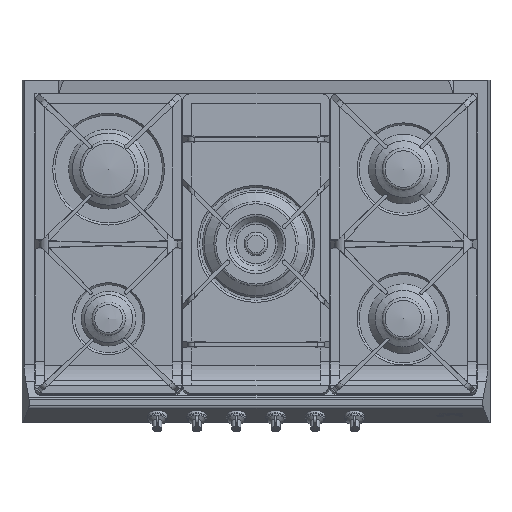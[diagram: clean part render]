
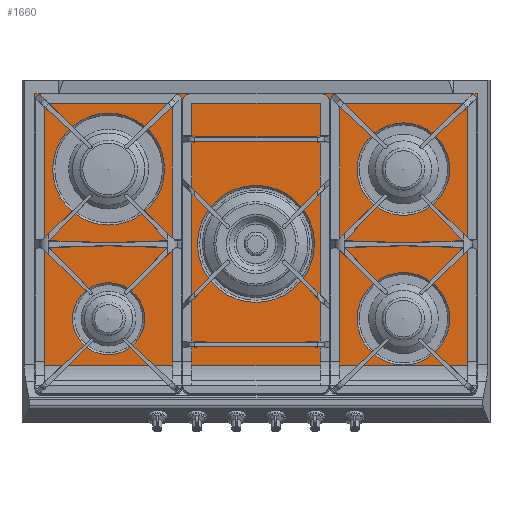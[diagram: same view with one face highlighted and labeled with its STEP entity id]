
A CAD part, top view. The second image highlights one B-rep face of the part: STEP entity #1660.
In plain terms, the highlighted planar face has unit normal (0, 0, 1).
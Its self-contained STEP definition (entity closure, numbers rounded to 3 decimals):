
#644=PLANE('',#12295);
#1660=ADVANCED_FACE('',(#2512,#2513,#2514,#2515,#2516,#2517),#644,.F.);
#2512=FACE_BOUND('',#2901,.T.);
#2513=FACE_BOUND('',#2902,.T.);
#2514=FACE_BOUND('',#2903,.T.);
#2515=FACE_BOUND('',#2904,.T.);
#2516=FACE_BOUND('',#2905,.T.);
#2517=FACE_BOUND('',#2906,.T.);
#2901=EDGE_LOOP('',(#4071));
#2902=EDGE_LOOP('',(#4072));
#2903=EDGE_LOOP('',(#4073));
#2904=EDGE_LOOP('',(#4074));
#2905=EDGE_LOOP('',(#4075));
#2906=EDGE_LOOP('',(#4076,#4077,#4078,#4079));
#4071=ORIENTED_EDGE('',*,*,#8109,.F.);
#4072=ORIENTED_EDGE('',*,*,#8110,.F.);
#4073=ORIENTED_EDGE('',*,*,#8111,.F.);
#4074=ORIENTED_EDGE('',*,*,#8112,.F.);
#4075=ORIENTED_EDGE('',*,*,#8113,.F.);
#4076=ORIENTED_EDGE('',*,*,#8114,.F.);
#4077=ORIENTED_EDGE('',*,*,#8108,.F.);
#4078=ORIENTED_EDGE('',*,*,#8115,.F.);
#4079=ORIENTED_EDGE('',*,*,#8116,.T.);
#6958=VERTEX_POINT('',#17663);
#6959=VERTEX_POINT('',#17665);
#6960=VERTEX_POINT('',#17669);
#6961=VERTEX_POINT('',#17671);
#6962=VERTEX_POINT('',#17673);
#6963=VERTEX_POINT('',#17675);
#6964=VERTEX_POINT('',#17677);
#6965=VERTEX_POINT('',#17679);
#6966=VERTEX_POINT('',#17681);
#8108=EDGE_CURVE('',#6959,#6958,#10085,.T.);
#8109=EDGE_CURVE('',#6960,#6960,#9513,.T.);
#8110=EDGE_CURVE('',#6961,#6961,#9514,.T.);
#8111=EDGE_CURVE('',#6962,#6962,#9515,.T.);
#8112=EDGE_CURVE('',#6963,#6963,#9516,.T.);
#8113=EDGE_CURVE('',#6964,#6964,#9517,.T.);
#8114=EDGE_CURVE('',#6958,#6965,#10086,.T.);
#8115=EDGE_CURVE('',#6966,#6959,#10087,.T.);
#8116=EDGE_CURVE('',#6966,#6965,#10088,.T.);
#9513=CIRCLE('',#12290,82.25);
#9514=CIRCLE('',#12291,53.);
#9515=CIRCLE('',#12292,86.);
#9516=CIRCLE('',#12293,68.);
#9517=CIRCLE('',#12294,68.);
#10085=LINE('',#17666,#11118);
#10086=LINE('',#17678,#11119);
#10087=LINE('',#17680,#11120);
#10088=LINE('',#17682,#11121);
#11118=VECTOR('',#13858,1.);
#11119=VECTOR('',#13871,1.);
#11120=VECTOR('',#13872,1.);
#11121=VECTOR('',#13873,1.);
#12290=AXIS2_PLACEMENT_3D('',#17668,#13861,#13862);
#12291=AXIS2_PLACEMENT_3D('',#17670,#13863,#13864);
#12292=AXIS2_PLACEMENT_3D('',#17672,#13865,#13866);
#12293=AXIS2_PLACEMENT_3D('',#17674,#13867,#13868);
#12294=AXIS2_PLACEMENT_3D('',#17676,#13869,#13870);
#12295=AXIS2_PLACEMENT_3D('',#17683,#13874,#13875);
#13858=DIRECTION('',(-1.,0.,0.));
#13861=DIRECTION('',(0.,0.,1.));
#13862=DIRECTION('',(0.,1.,0.));
#13863=DIRECTION('',(0.,0.,1.));
#13864=DIRECTION('',(0.,1.,0.));
#13865=DIRECTION('',(0.,0.,1.));
#13866=DIRECTION('',(0.,1.,0.));
#13867=DIRECTION('',(0.,0.,1.));
#13868=DIRECTION('',(0.,1.,0.));
#13869=DIRECTION('',(0.,0.,1.));
#13870=DIRECTION('',(0.,1.,0.));
#13871=DIRECTION('',(0.,1.,0.));
#13872=DIRECTION('',(0.,-1.,0.));
#13873=DIRECTION('',(-1.,0.,0.));
#13874=DIRECTION('',(0.,0.,-1.));
#13875=DIRECTION('',(0.,1.,0.));
#17663=CARTESIAN_POINT('',(-541.7,-69.356,-8.2));
#17665=CARTESIAN_POINT('',(108.3,-69.356,-8.2));
#17666=CARTESIAN_POINT('',(-215.7,-69.356,-8.2));
#17668=CARTESIAN_POINT('',(-433.4,220.,-8.2));
#17669=CARTESIAN_POINT('',(-433.4,302.25,-8.2));
#17670=CARTESIAN_POINT('',(-433.4,0.,-8.2));
#17671=CARTESIAN_POINT('',(-433.4,53.,-8.2));
#17672=CARTESIAN_POINT('',(-216.7,110.,-8.2));
#17673=CARTESIAN_POINT('',(-216.7,196.,-8.2));
#17674=CARTESIAN_POINT('',(0.,0.,
-8.2));
#17675=CARTESIAN_POINT('',(0.,68.,-8.2));
#17676=CARTESIAN_POINT('',(0.,220.,-8.2));
#17677=CARTESIAN_POINT('',(0.,288.,-8.2));
#17678=CARTESIAN_POINT('',(-541.7,-69.356,-8.2));
#17679=CARTESIAN_POINT('',(-541.7,330.5,-8.2));
#17680=CARTESIAN_POINT('',(108.3,-69.356,-8.2));
#17681=CARTESIAN_POINT('',(108.3,330.5,-8.2));
#17682=CARTESIAN_POINT('',(-215.7,330.5,-8.2));
#17683=CARTESIAN_POINT('',(-215.7,-69.356,-8.2));
